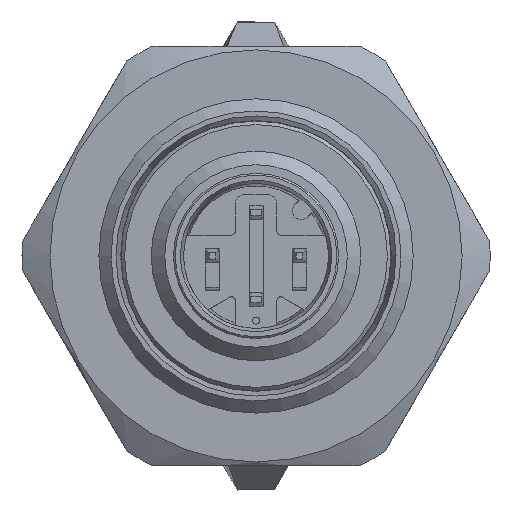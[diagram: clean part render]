
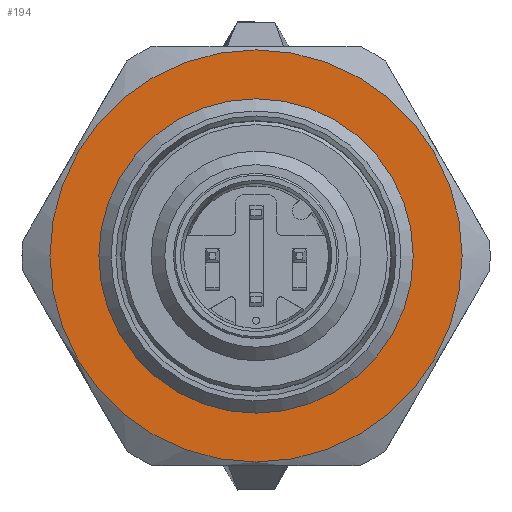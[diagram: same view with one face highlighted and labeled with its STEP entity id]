
A CAD part, left-side view. The second image highlights one B-rep face of the part: STEP entity #194.
In plain terms, the highlighted planar face has unit normal (-1, 0, 0) as drawn and (0, 1, 0) by its records, which use the part's own axes.
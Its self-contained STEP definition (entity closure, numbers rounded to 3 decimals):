
#194 = ADVANCED_FACE( '', ( #363, #364 ), #365, .T. );
#363 = FACE_BOUND( '', #708, .T. );
#364 = FACE_OUTER_BOUND( '', #709, .T. );
#365 = PLANE( '', #710 );
#708 = EDGE_LOOP( '', ( #1143 ) );
#709 = EDGE_LOOP( '', ( #1144 ) );
#710 = AXIS2_PLACEMENT_3D( '', #1145, #1146, #1147 );
#1143 = ORIENTED_EDGE( '', *, *, #2235, .T. );
#1144 = ORIENTED_EDGE( '', *, *, #2209, .F. );
#1145 = CARTESIAN_POINT( '', ( 0., 2., 0. ) );
#1146 = DIRECTION( '', ( 0., 1., 0. ) );
#1147 = DIRECTION( '', ( 0., 0., 1. ) );
#2209 = EDGE_CURVE( '', #2589, #2589, #2590, .T. );
#2235 = EDGE_CURVE( '', #2629, #2629, #2630, .F. );
#2589 = VERTEX_POINT( '', #3220 );
#2590 = CIRCLE( '', #3221, 11.8 );
#2629 = VERTEX_POINT( '', #3376 );
#2630 = CIRCLE( '', #3377, 8.959 );
#3220 = CARTESIAN_POINT( '', ( 0., 2., -11.8 ) );
#3221 = AXIS2_PLACEMENT_3D( '', #4373, #4374, #4375 );
#3376 = CARTESIAN_POINT( '', ( 0., 2., 8.959 ) );
#3377 = AXIS2_PLACEMENT_3D( '', #4409, #4410, #4411 );
#4373 = CARTESIAN_POINT( '', ( 0., 2., 0. ) );
#4374 = DIRECTION( '', ( 0., -1., 0. ) );
#4375 = DIRECTION( '', ( 0., 0., -1. ) );
#4409 = CARTESIAN_POINT( '', ( 0., 2., 0. ) );
#4410 = DIRECTION( '', ( 0., 1., 0. ) );
#4411 = DIRECTION( '', ( 0., 0., 1. ) );
